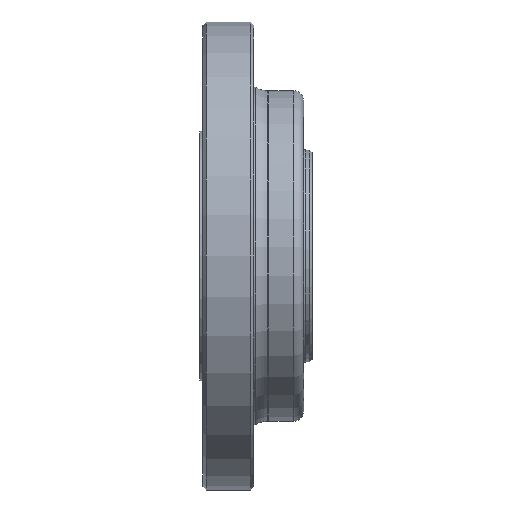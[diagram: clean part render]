
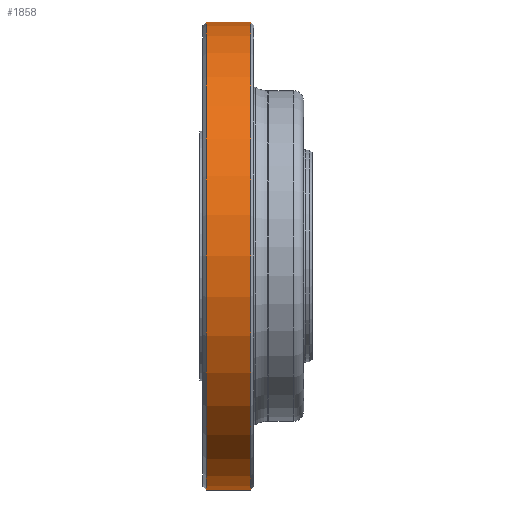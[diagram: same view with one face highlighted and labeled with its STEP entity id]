
A CAD part, front view. The second image highlights one B-rep face of the part: STEP entity #1858.
In plain terms, the highlighted cylindrical face has radius 30 mm (diameter 60 mm), a partial arc.
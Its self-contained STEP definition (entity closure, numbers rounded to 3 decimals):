
#396 = VECTOR ( 'NONE', #6404, 1000. ) ;
#993 = CARTESIAN_POINT ( 'NONE',  ( 0., 0., -30. ) ) ;
#1129 = EDGE_CURVE ( 'NONE', #3679, #10502, #10747, .T. ) ;
#1390 = AXIS2_PLACEMENT_3D ( 'NONE', #11241, #5313, #12232 ) ;
#1510 = CARTESIAN_POINT ( 'NONE',  ( 14.233, 0., -30. ) ) ;
#1565 = AXIS2_PLACEMENT_3D ( 'NONE', #9540, #3606, #10531 ) ;
#1858 = ADVANCED_FACE ( 'NONE', ( #7045 ), #9062, .T. ) ;
#1885 = ORIENTED_EDGE ( 'NONE', *, *, #8634, .F. ) ;
#1982 = CARTESIAN_POINT ( 'NONE',  ( 8.533, 0., -30. ) ) ;
#2990 = LINE ( 'NONE', #12332, #396 ) ;
#3237 = DIRECTION ( 'NONE',  ( 0., 0., 1. ) ) ;
#3606 = DIRECTION ( 'NONE',  ( -1., 0., 0. ) ) ;
#3679 = VERTEX_POINT ( 'NONE', #1982 ) ;
#3996 = ORIENTED_EDGE ( 'NONE', *, *, #7159, .T. ) ;
#4533 = ORIENTED_EDGE ( 'NONE', *, *, #4757, .T. ) ;
#4757 = EDGE_CURVE ( 'NONE', #4867, #10502, #2990, .T. ) ;
#4867 = VERTEX_POINT ( 'NONE', #12496 ) ;
#5313 = DIRECTION ( 'NONE',  ( -1., 0., 0. ) ) ;
#6404 = DIRECTION ( 'NONE',  ( -1., 0., 0. ) ) ;
#7045 = FACE_OUTER_BOUND ( 'NONE', #11527, .T. ) ;
#7159 = EDGE_CURVE ( 'NONE', #10953, #4867, #7965, .T. ) ;
#7190 = CARTESIAN_POINT ( 'NONE',  ( 0., 0., 0. ) ) ;
#7945 = AXIS2_PLACEMENT_3D ( 'NONE', #7190, #9182, #3237 ) ;
#7965 = CIRCLE ( 'NONE', #1565, 30. ) ;
#8634 = EDGE_CURVE ( 'NONE', #10953, #3679, #9247, .T. ) ;
#8690 = ORIENTED_EDGE ( 'NONE', *, *, #1129, .F. ) ;
#8838 = DIRECTION ( 'NONE',  ( -1., 0., 0. ) ) ;
#9062 = CYLINDRICAL_SURFACE ( 'NONE', #7945, 30. ) ;
#9182 = DIRECTION ( 'NONE',  ( -1., 0., 0. ) ) ;
#9247 = LINE ( 'NONE', #993, #10171 ) ;
#9540 = CARTESIAN_POINT ( 'NONE',  ( 14.233, 0., 0. ) ) ;
#10171 = VECTOR ( 'NONE', #8838, 1000. ) ;
#10502 = VERTEX_POINT ( 'NONE', #11686 ) ;
#10531 = DIRECTION ( 'NONE',  ( 0., 0., 1. ) ) ;
#10747 = CIRCLE ( 'NONE', #1390, 30. ) ;
#10953 = VERTEX_POINT ( 'NONE', #1510 ) ;
#11241 = CARTESIAN_POINT ( 'NONE',  ( 8.533, 0., 0. ) ) ;
#11527 = EDGE_LOOP ( 'NONE', ( #1885, #3996, #4533, #8690 ) ) ;
#11686 = CARTESIAN_POINT ( 'NONE',  ( 8.533, 0., 30. ) ) ;
#12232 = DIRECTION ( 'NONE',  ( 0., 0., 1. ) ) ;
#12332 = CARTESIAN_POINT ( 'NONE',  ( 0., 0., 30. ) ) ;
#12496 = CARTESIAN_POINT ( 'NONE',  ( 14.233, 0., 30. ) ) ;
